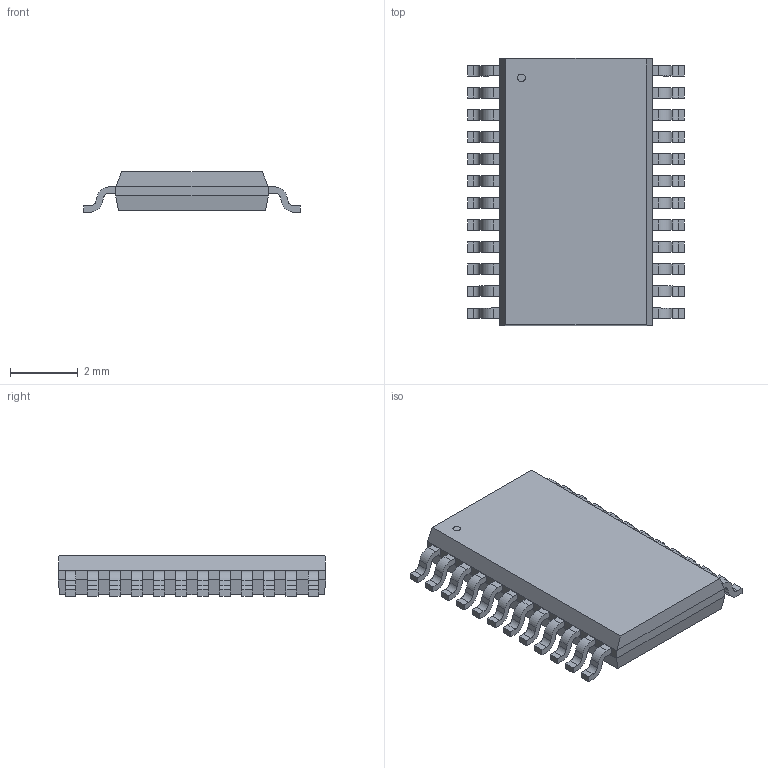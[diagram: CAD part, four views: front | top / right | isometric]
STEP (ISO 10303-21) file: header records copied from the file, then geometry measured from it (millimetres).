
FILE_DESCRIPTION(('STEP AP214'),'1');
FILE_NAME('RU-24_ADI','2023-03-02T12:19:11',(''),(''),'','','');
FILE_SCHEMA(('AUTOMOTIVE_DESIGN'));
Length unit declared in the file: millimetre
Products named in the file (1): product
Bounding box: 6.4 x 7.9 x 1.2 mm (x, y, z)
Volume: 41.3 mm3; surface area: 127.5 mm2
Topology: 26 solids, 26 shells, 353 faces, 895 edges, 594 vertices
Faces by surface type: plane 256, cylinder 97
Full cylindrical faces by diameter (mm): 0.225 x1
Entity records: 10136 total; most frequent: DIRECTION 1798, ORIENTED_EDGE 1788, CARTESIAN_POINT 1047, EDGE_CURVE 894, LINE 700, VECTOR 700, VERTEX_POINT 594, AXIS2_PLACEMENT_3D 549
